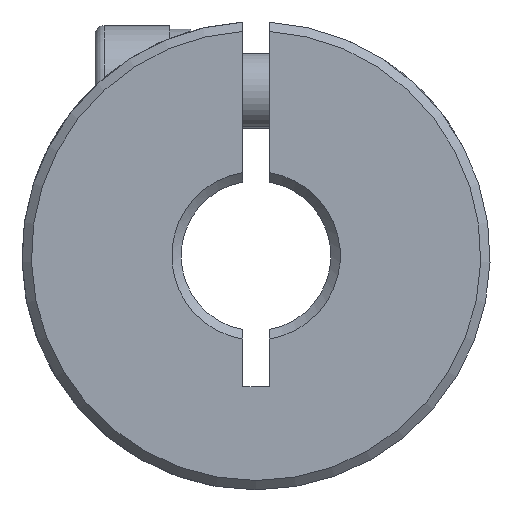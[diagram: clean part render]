
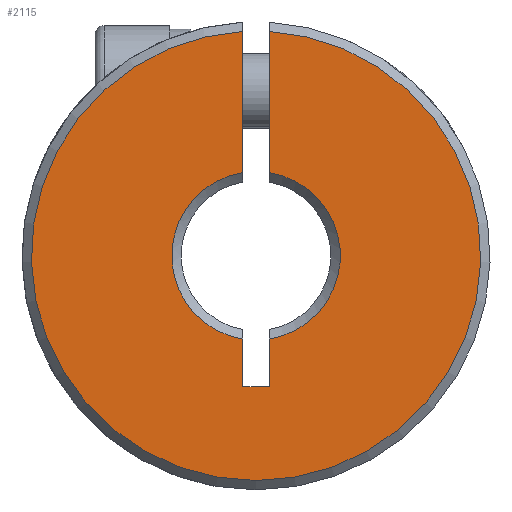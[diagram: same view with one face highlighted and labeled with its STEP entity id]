
A CAD part, front view. The second image highlights one B-rep face of the part: STEP entity #2115.
In plain terms, the highlighted planar face has unit normal (0, -1, 0).
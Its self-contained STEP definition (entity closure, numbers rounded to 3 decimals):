
#131 = ORIENTED_EDGE ( 'NONE', *, *, #2752, .F. ) ;
#139 = ORIENTED_EDGE ( 'NONE', *, *, #2287, .F. ) ;
#247 = EDGE_CURVE ( 'NONE', #2551, #3193, #2244, .T. ) ;
#276 = DIRECTION ( 'NONE',  ( 1., 0., 0. ) ) ;
#289 = DIRECTION ( 'NONE',  ( 0., 0., 1. ) ) ;
#344 = AXIS2_PLACEMENT_3D ( 'NONE', #1029, #1011, #1520 ) ;
#388 = EDGE_CURVE ( 'NONE', #2717, #2152, #2171, .T. ) ;
#391 = VECTOR ( 'NONE', #276, 1000. ) ;
#554 = AXIS2_PLACEMENT_3D ( 'NONE', #3186, #778, #1860 ) ;
#695 = EDGE_CURVE ( 'NONE', #1943, #3193, #2206, .T. ) ;
#737 = CARTESIAN_POINT ( 'NONE',  ( -0.7, 0.25, -7. ) ) ;
#759 = PLANE ( 'NONE',  #344 ) ;
#778 = DIRECTION ( 'NONE',  ( 0., 1., 0. ) ) ;
#795 = ORIENTED_EDGE ( 'NONE', *, *, #388, .F. ) ;
#825 = CARTESIAN_POINT ( 'NONE',  ( 0., 0.25, 0. ) ) ;
#860 = CARTESIAN_POINT ( 'NONE',  ( -0.7, 0.25, -7. ) ) ;
#912 = AXIS2_PLACEMENT_3D ( 'NONE', #825, #1631, #289 ) ;
#925 = VERTEX_POINT ( 'NONE', #2672 ) ;
#970 = ORIENTED_EDGE ( 'NONE', *, *, #2942, .T. ) ;
#976 = VECTOR ( 'NONE', #1295, 1000. ) ;
#1011 = DIRECTION ( 'NONE',  ( 0., 1., 0. ) ) ;
#1029 = CARTESIAN_POINT ( 'NONE',  ( 12.5, 0.25, -50. ) ) ;
#1233 = CARTESIAN_POINT ( 'NONE',  ( 0.7, 0.25, 11.98 ) ) ;
#1270 = DIRECTION ( 'NONE',  ( 0., 0., -1. ) ) ;
#1295 = DIRECTION ( 'NONE',  ( 0., 0., 1. ) ) ;
#1308 = DIRECTION ( 'NONE',  ( 0., -1., 0. ) ) ;
#1345 = DIRECTION ( 'NONE',  ( 0., 0., -1. ) ) ;
#1398 = VECTOR ( 'NONE', #1486, 1000. ) ;
#1480 = EDGE_CURVE ( 'NONE', #2717, #925, #2709, .T. ) ;
#1486 = DIRECTION ( 'NONE',  ( 0., 0., 1. ) ) ;
#1520 = DIRECTION ( 'NONE',  ( 0., 0., 1. ) ) ;
#1573 = ORIENTED_EDGE ( 'NONE', *, *, #2217, .F. ) ;
#1579 = VECTOR ( 'NONE', #1345, 1000. ) ;
#1631 = DIRECTION ( 'NONE',  ( 0., 1., 0. ) ) ;
#1648 = VERTEX_POINT ( 'NONE', #1952 ) ;
#1662 = LINE ( 'NONE', #3214, #391 ) ;
#1707 = CIRCLE ( 'NONE', #912, 4.5 ) ;
#1741 = CARTESIAN_POINT ( 'NONE',  ( -0.7, 0.25, 11.98 ) ) ;
#1792 = CARTESIAN_POINT ( 'NONE',  ( 0.7, 0.25, 4.445 ) ) ;
#1831 = CARTESIAN_POINT ( 'NONE',  ( 0.7, 0.25, -7. ) ) ;
#1860 = DIRECTION ( 'NONE',  ( 0., 0., 1. ) ) ;
#1943 = VERTEX_POINT ( 'NONE', #1792 ) ;
#1952 = CARTESIAN_POINT ( 'NONE',  ( 0.7, 0.25, -4.445 ) ) ;
#2038 = VERTEX_POINT ( 'NONE', #1831 ) ;
#2115 = ADVANCED_FACE ( 'NONE', ( #3073 ), #759, .F. ) ;
#2152 = VERTEX_POINT ( 'NONE', #737 ) ;
#2171 = LINE ( 'NONE', #860, #1579 ) ;
#2206 = LINE ( 'NONE', #2817, #1398 ) ;
#2217 = EDGE_CURVE ( 'NONE', #2551, #925, #2870, .T. ) ;
#2244 = CIRCLE ( 'NONE', #3219, 12. ) ;
#2287 = EDGE_CURVE ( 'NONE', #2152, #2038, #1662, .T. ) ;
#2337 = CARTESIAN_POINT ( 'NONE',  ( -0.7, 0.25, -7. ) ) ;
#2402 = DIRECTION ( 'NONE',  ( 0., 0., 1. ) ) ;
#2511 = ORIENTED_EDGE ( 'NONE', *, *, #247, .T. ) ;
#2551 = VERTEX_POINT ( 'NONE', #1741 ) ;
#2672 = CARTESIAN_POINT ( 'NONE',  ( -0.7, 0.25, 4.445 ) ) ;
#2709 = CIRCLE ( 'NONE', #554, 4.5 ) ;
#2717 = VERTEX_POINT ( 'NONE', #3114 ) ;
#2752 = EDGE_CURVE ( 'NONE', #2038, #1648, #2825, .T. ) ;
#2809 = ORIENTED_EDGE ( 'NONE', *, *, #1480, .T. ) ;
#2817 = CARTESIAN_POINT ( 'NONE',  ( 0.7, 0.25, -7. ) ) ;
#2825 = LINE ( 'NONE', #3209, #976 ) ;
#2861 = ORIENTED_EDGE ( 'NONE', *, *, #695, .F. ) ;
#2870 = LINE ( 'NONE', #2337, #3433 ) ;
#2934 = CARTESIAN_POINT ( 'NONE',  ( 0., 0.25, 0. ) ) ;
#2942 = EDGE_CURVE ( 'NONE', #1943, #1648, #1707, .T. ) ;
#3073 = FACE_OUTER_BOUND ( 'NONE', #3330, .T. ) ;
#3114 = CARTESIAN_POINT ( 'NONE',  ( -0.7, 0.25, -4.445 ) ) ;
#3186 = CARTESIAN_POINT ( 'NONE',  ( 0., 0.25, 0. ) ) ;
#3193 = VERTEX_POINT ( 'NONE', #1233 ) ;
#3209 = CARTESIAN_POINT ( 'NONE',  ( 0.7, 0.25, -7. ) ) ;
#3214 = CARTESIAN_POINT ( 'NONE',  ( 0.7, 0.25, -7. ) ) ;
#3219 = AXIS2_PLACEMENT_3D ( 'NONE', #2934, #1308, #2402 ) ;
#3330 = EDGE_LOOP ( 'NONE', ( #2861, #970, #131, #139, #795, #2809, #1573, #2511 ) ) ;
#3433 = VECTOR ( 'NONE', #1270, 1000. ) ;
